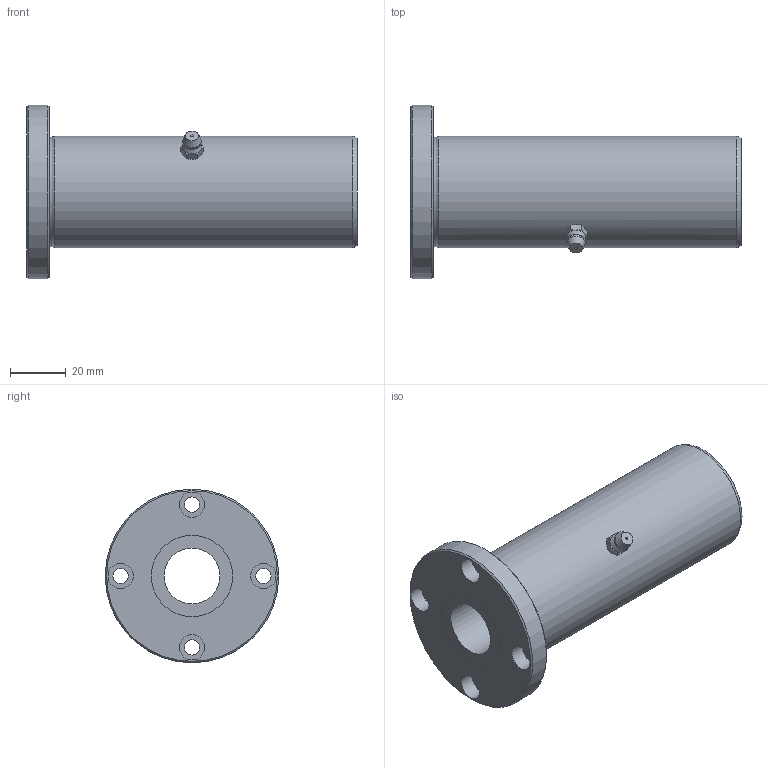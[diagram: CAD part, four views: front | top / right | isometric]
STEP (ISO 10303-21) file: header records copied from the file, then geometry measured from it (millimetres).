
FILE_DESCRIPTION((''),'2;1');
FILE_NAME('D:\製品 (図面)\カタログ用3D\リニアベアリング関連\STEP形式\LFL\LFL20.stp','2010-06-04T09:00:09',('Tsuchiya'),(''),'Autodesk Inventor 10','Autodesk Inventor 10','');
FILE_SCHEMA(('AUTOMOTIVE_DESIGN { 1 0 10303 214 1 1 1 1 }'));
Length unit declared in the file: millimetre
Products named in the file (1): LFL20
Bounding box: 118 x 62 x 62 mm (x, y, z)
Volume: 123721.2 mm3; surface area: 28873.9 mm2
Topology: 1 solids, 1 shells, 55 faces, 110 edges, 66 vertices
Faces by surface type: plane 19, cone 15, cylinder 15, bspline 3, sphere 2, torus 1
Full cylindrical faces by diameter (mm): 5.5 x4, 9 x4, 20 x1, 29 x2, 40 x1, 62 x1
Entity records: 1561 total; most frequent: CARTESIAN_POINT 508, DIRECTION 220, ORIENTED_EDGE 176, AXIS2_PLACEMENT_3D 105, EDGE_LOOP 96, EDGE_CURVE 88, VERTEX_POINT 64, FACE_OUTER_BOUND 55
